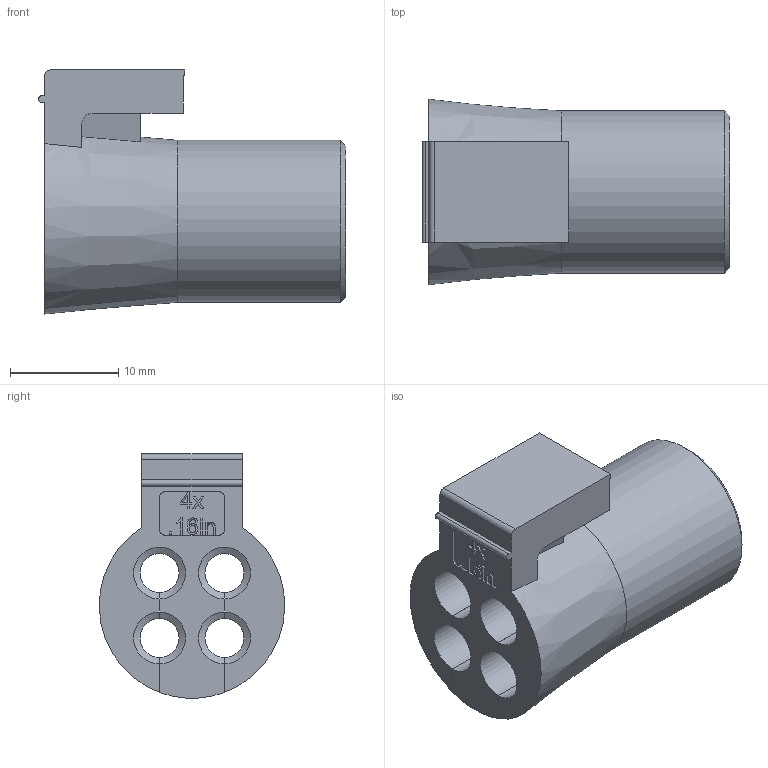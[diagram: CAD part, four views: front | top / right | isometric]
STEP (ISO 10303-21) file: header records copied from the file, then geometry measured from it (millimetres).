
FILE_DESCRIPTION(/* description */ (''),/* implementation_level */ '2;1');
FILE_NAME(/* name */ 'H:\SapWorkDir\Inventor\MP1\ConvertTempPath\87_12_121335_00_A_220525_KDT-X 4x4.stp',/* time_stamp */ '2022-05-25T11:39:35+02:00',/* author */ ('BAUER'),/* organization */ (''),/* preprocessor_version */ 'ST-DEVELOPER v16.13',/* originating_system */ 'Autodesk Inventor 2018',/* authorisation */ '');
FILE_SCHEMA (('AUTOMOTIVE_DESIGN { 1 0 10303 214 3 1 1 }'));
Length unit declared in the file: millimetre
Products named in the file (1): 121335
Bounding box: 28.4 x 17.14 x 22.55 mm (x, y, z)
Volume: 3843.5 mm3; surface area: 4026.1 mm2
Topology: 1 solids, 1 shells, 162 faces, 449 edges, 300 vertices
Faces by surface type: plane 93, cylinder 29, bspline 24, cone 16
Entity records: 5328 total; most frequent: CARTESIAN_POINT 1220, ORIENTED_EDGE 898, DIRECTION 743, EDGE_CURVE 449, LINE 321, VECTOR 321, VERTEX_POINT 300, AXIS2_PLACEMENT_3D 211
